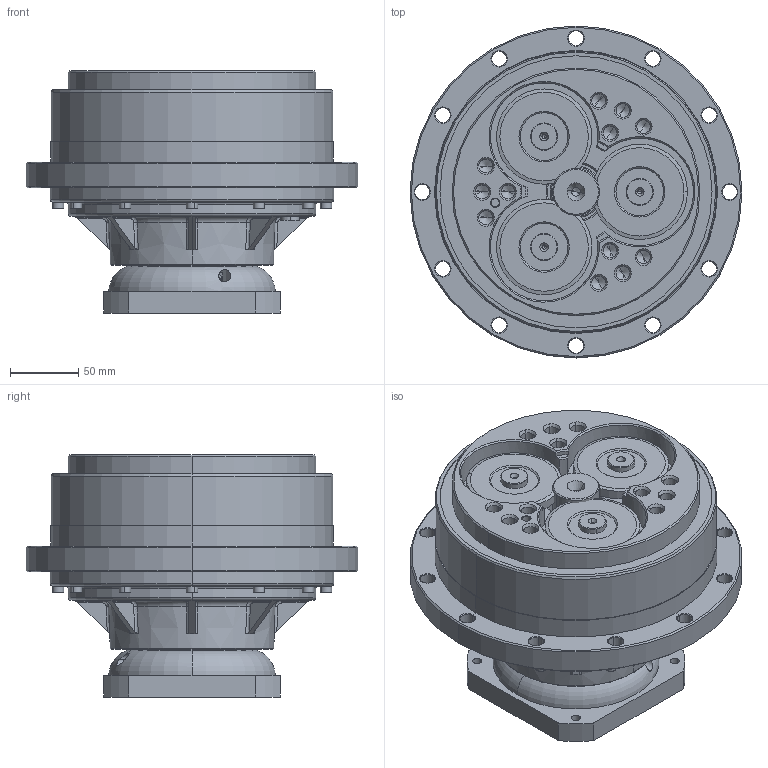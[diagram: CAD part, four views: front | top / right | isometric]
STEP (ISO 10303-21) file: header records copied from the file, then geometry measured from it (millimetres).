
FILE_DESCRIPTION (( 'STEP AP214' ), '1' );
FILE_NAME ('250BX-RA-24-110145H35.STEP', '2022-11-11T09:24:25', ( '' ), ( '' ), 'SwSTEP 2.0', 'SolidWorks 2020', '' );
FILE_SCHEMA (( 'AUTOMOTIVE_DESIGN' ));
Length unit declared in the file: millimetre
Products named in the file (12): DIN 908 - M10 x 1.stp; 250BX-RA输入法兰.stp; 250BX粣-24.stp; 萇儂假蚾楊擘110-145H37.stp; 坶踡ん27-45.stp; 蹟隊 GB_T 70.1 M5 x 30.stp; 錨璃1248^250BX-RA-24-110145H35; 蹟隊 GB_T 70.1 M5 x 20.stp; 250BX-RA-24-110145H35.stp; 粣創 6010-2Z GB_T 276-94.stp; 250BX-RA-24-110145H35; 250BX-OP-01.stp
Assembly tree (27 placements, depth 3):
  250BX-RA-24-110145H35
    250BX-RA-24-110145H35.stp
      250BX-RA输入法兰.stp
      250BX-OP-01.stp
      250BX粣-24.stp
      粣創 6010-2Z GB_T 276-94.stp
      萇儂假蚾楊擘110-145H37.stp
      坶踡ん27-45.stp
      DIN 908 - M10 x 1.stp
      蹟隊 GB_T 70.1 M5 x 20.stp  x6
      蹟隊 GB_T 70.1 M5 x 30.stp  x12
    錨璃1248^250BX-RA-24-110145H35
Bounding box: 244 x 244 x 178 mm (x, y, z)
Volume: 3844254 mm3; surface area: 476337.9 mm2
Topology: 105 solids, 105 shells, 3301 faces, 8480 edges, 5414 vertices
Faces by surface type: plane 1444, bspline 628, cylinder 538, cone 507, torus 158, sphere 26
Entity records: 136915 total; most frequent: CARTESIAN_POINT 50112, ORIENTED_EDGE 14990, DIRECTION 11801, EDGE_CURVE 7495, VERTEX_POINT 4847, LINE 4569, VECTOR 4569, AXIS2_PLACEMENT_3D 3616
